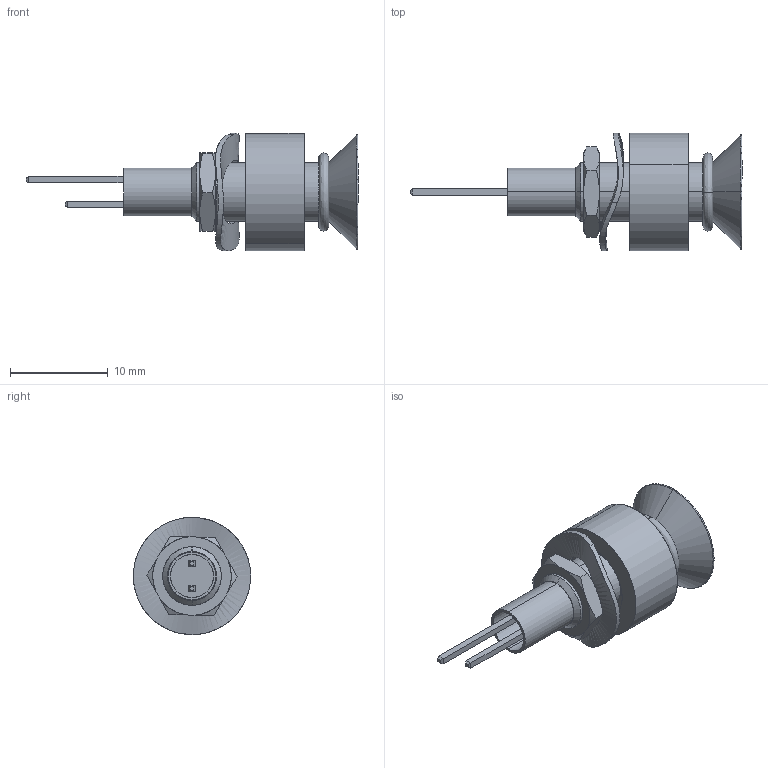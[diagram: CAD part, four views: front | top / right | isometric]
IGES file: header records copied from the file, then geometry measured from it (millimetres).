
Start section: SolidWorks IGES file using analytic representation for surfaces
Global section: file name: G:\Marl\DESIGN\Paul Robson\STEP-IGES FILES\520 series\520series.IGS; native system: SolidWorks 2016; preprocessor: SolidWorks 2016; author: Paulr; date: 160412.130437; units: millimetre
Bounding box: 34 x 12 x 12 mm (x, y, z)
Surface area: 2007.2 mm2 (no closed solid volume)
Topology: 0 solids, 0 shells, 99 faces, 1347 edges, 1347 vertices
Faces by surface type: bspline 55, revolution 44
